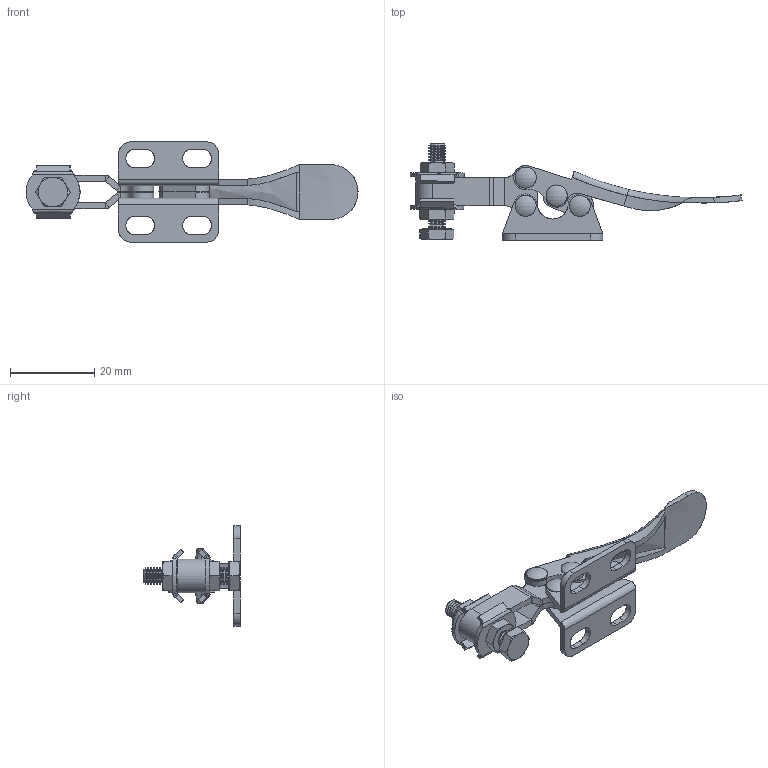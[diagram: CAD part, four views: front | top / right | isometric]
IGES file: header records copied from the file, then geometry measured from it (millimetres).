
Start section: SolidWorks IGES file using analytic representation for surfaces
Global section: file name: \\BARTOP_SV6\share\SOLIDWORKS\工具事業部\坂入用\受け渡し\作業中\2015.06.30\ISK-HH2500\ISK-HH2500.IGS; native system: SolidWorks 2015; preprocessor: SolidWorks 2015; author: SOLID02; date: 150630.160124; units: millimetre
Bounding box: 78.74 x 22.88 x 23.8 mm (x, y, z)
Surface area: 6690.3 mm2 (no closed solid volume)
Topology: 0 solids, 0 shells, 541 faces, 6103 edges, 6103 vertices
Faces by surface type: revolution 353, bspline 188
